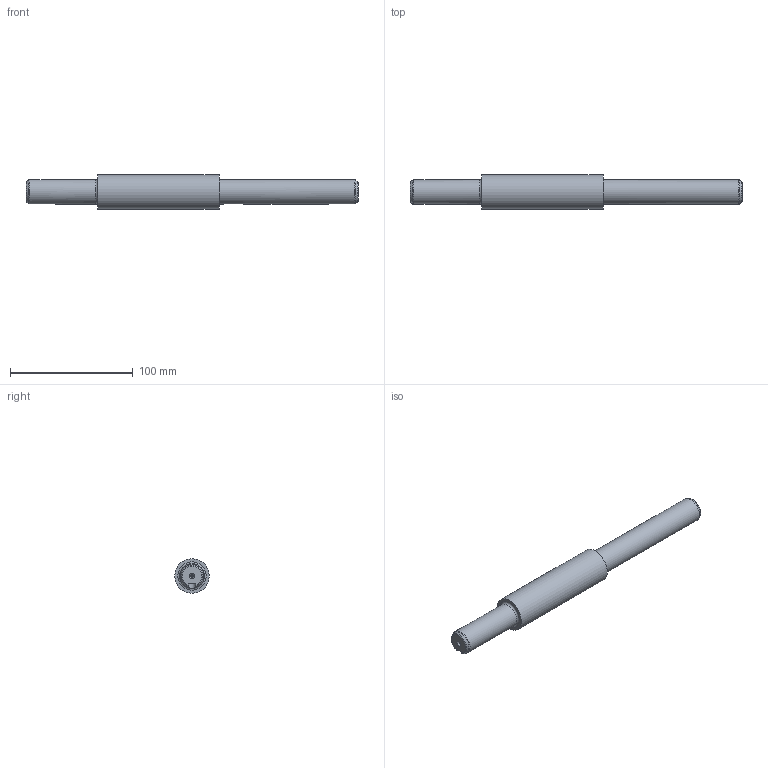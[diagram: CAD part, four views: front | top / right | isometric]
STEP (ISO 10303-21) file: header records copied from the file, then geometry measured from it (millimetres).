
FILE_DESCRIPTION(/* description */ (''),/* implementation_level */ '2;1');
FILE_NAME(/* name */ '',/* time_stamp */ '2026-01-09T11:14:58+09:00',/* author */ ('jhkim'),/* organization */ (''),/* preprocessor_version */ 'ST-DEVELOPER v20.1',/* originating_system */ 'Autodesk Inventor 2026',/* authorisation */ '');
FILE_SCHEMA (('AUTOMOTIVE_DESIGN { 1 0 10303 214 3 1 1 }'));
Length unit declared in the file: millimetre
Products named in the file (1): 종동축
Bounding box: 270 x 28 x 28 mm (x, y, z)
Volume: 113054.1 mm3; surface area: 20952.6 mm2
Topology: 1 solids, 1 shells, 33 faces, 83 edges, 55 vertices
Faces by surface type: plane 13, cylinder 9, cone 6, torus 5
Full cylindrical faces by diameter (mm): 2 x2, 20 x2, 28 x1
Entity records: 1112 total; most frequent: CARTESIAN_POINT 298, ORIENTED_EDGE 162, DIRECTION 155, EDGE_CURVE 81, AXIS2_PLACEMENT_3D 60, VERTEX_POINT 55, EDGE_LOOP 38, LINE 35
